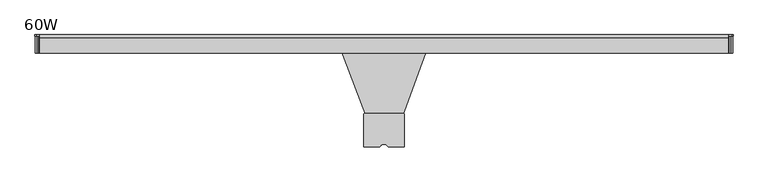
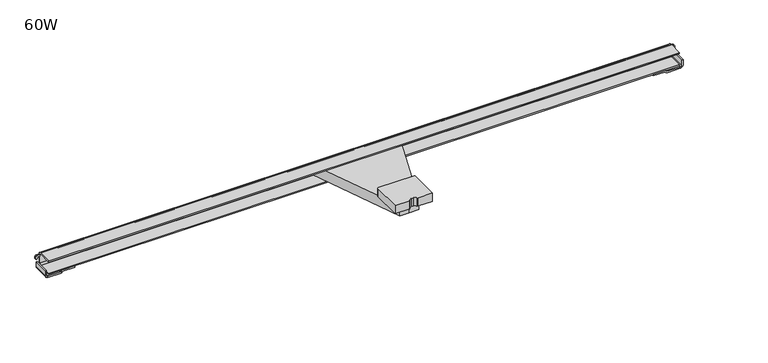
"""IFC4 building model written with IfcOpenShell, lengths in millimetres: furniture geometry, Steelcase Turnstone - Bivi - Accessories - Monitor Arm Table Mount : 60W."""

from ifc_helpers import new_model, si_unit, point, frame, frame_2d, origin, place, context, project, spatial, polyline, circle_curve, trimmed, segment, composite_curve, outline, extrude, source, transform, mapped, element, save


def furniture_60w_2125a2dd(model_context):
    return source(origin(), model_context, "Body", "SweptSolid", [
        extrude(outline(composite_curve([segment(trimmed(circle_curve(frame_2d((145.6975492, -269.8839501)), 2.257898), [point((145.6975492, -267.6260521))], [point((147.9554472, -269.8838873))], False, "CARTESIAN"), True, "CONTINUOUS"), segment(polyline([(147.9554472, -269.8838873), (147.9573046, -336.626034), (115.7071375, -336.626034)]), True, "CONTINUOUS"), segment(trimmed(circle_curve(frame_2d((115.7071375, -334.3756531)), 2.2503809), [point((115.7071375, -336.626034))], [point((113.6913493, -335.3760591))], False, "CARTESIAN"), True, "CONTINUOUS"), segment(trimmed(circle_curve(frame_2d((107.6120183, -338.3931418)), 6.7868295), [point((113.6913493, -335.3760591))], [point((108.1291888, -331.6260458))], True, "CARTESIAN"), True, "CONTINUOUS"), segment(trimmed(circle_curve(frame_2d((106.0453771, -358.8923961)), 27.3458613), [point((108.1291888, -331.6260458))], [point((103.9615653, -331.6260458))], True, "CARTESIAN"), True, "CONTINUOUS"), segment(trimmed(circle_curve(frame_2d((104.4791205, -338.3981738)), 6.7918762), [point((103.9615653, -331.6260458))], [point((99.5126263, -333.7653003))], True, "CARTESIAN"), True, "CONTINUOUS"), segment(trimmed(circle_curve(frame_2d((104.4791205, -338.3981738)), 6.7918762), [point((99.5126263, -333.7653003))], [point((98.3973037, -335.3747509))], True, "CARTESIAN"), True, "CONTINUOUS"), segment(trimmed(circle_curve(frame_2d((96.3769126, -334.3703641)), 2.2562741), [point((98.3973037, -335.3747509))], [point((96.429124, -336.626034))], False, "CARTESIAN"), True, "CONTINUOUS"), segment(polyline([(96.429124, -336.626034), (64.1398681, -336.626034), (64.1398681, -269.8377216)]), True, "CONTINUOUS"), segment(trimmed(circle_curve(frame_2d((66.3515376, -269.8377216)), 2.2116695), [point((64.1398681, -269.8377216))], [point((66.3515376, -267.6260521))], False, "CARTESIAN"), True, "CONTINUOUS"), segment(polyline([(66.3515376, -267.6260521), (145.6975492, -267.6260521)]), True, "CONTINUOUS")], self_intersect=False)), frame((0.0, 0.0, 691.6834103), z_axis=(0.0, 0.0, 1.0), x_axis=(1.0, 0.0, 0.0)), (0.0, 0.0, 1.0), 19.3004151),
        extrude(outline(polyline([(128.3372341, -317.6260494), (106.045569, -317.6260494), (86.0600715, -317.6260494), (6.7352254, -107.7199906), (106.045569, -107.7199906), (204.7367915, -107.7199906), (128.3372341, -317.6260494)])), frame((0.0, 0.0, 667.38344), z_axis=(0.0, 0.0, 1.0), x_axis=(1.0, 0.0, 0.0)), (0.0, 0.0, 1.0), 24.2999702),
        extrude(outline(composite_curve([segment(polyline([(674.8332545, -610.5146955), (674.8332545, -613.5547631), (663.5926927, -613.5547631)]), True, "CONTINUOUS"), segment(trimmed(circle_curve(frame_2d((663.5926927, -606.7952823)), 6.7594808), [point((663.5926927, -613.5547631))], [point((656.8332119, -606.7952823))], False, "CARTESIAN"), True, "CONTINUOUS"), segment(polyline([(656.8332119, -606.7952823), (656.8332119, -578.5548173)]), True, "CONTINUOUS"), segment(trimmed(circle_curve(frame_2d((662.9130886, -578.5548173)), 6.0798767), [point((656.8332119, -578.5548173))], [point((658.2556541, -574.6467225))], False, "CARTESIAN"), True, "CONTINUOUS"), segment(trimmed(circle_curve(frame_2d((650.1984046, -567.8858124)), 10.5180405), [point((658.2556541, -574.6467225))], [point((659.8731426, -572.0123872))], True, "CARTESIAN"), True, "CONTINUOUS"), segment(polyline([(659.8731426, -572.0123872), (659.8731426, -546.6123872), (662.9128796, -546.6123872), (662.9128796, -572.8251116)]), True, "CONTINUOUS"), segment(trimmed(circle_curve(frame_2d((658.7545906, -572.4008853)), 4.1798726), [point((662.9128796, -572.8251116))], [point((661.2761093, -575.7345437))], False, "CARTESIAN"), True, "CONTINUOUS"), segment(trimmed(circle_curve(frame_2d((663.4093131, -578.5548173)), 3.5361704), [point((661.2761093, -575.7345437))], [point((659.8731426, -578.5548173))], True, "CARTESIAN"), True, "CONTINUOUS"), segment(polyline([(659.8731426, -578.5548173), (659.8731426, -606.8598788)]), True, "CONTINUOUS"), segment(trimmed(circle_curve(frame_2d((663.5279593, -606.8598788)), 3.6548167), [point((659.8731426, -606.8598788))], [point((663.5279593, -610.5146955))], True, "CARTESIAN"), True, "CONTINUOUS"), segment(polyline([(663.5279593, -610.5146955), (674.8332545, -610.5146955)]), True, "CONTINUOUS")], self_intersect=False)), frame((0.0, -142.9290147, 0.0), z_axis=(0.0, 1.0, 0.0), x_axis=(0.0, 0.0, 1.0)), (0.0, 0.0, 1.0), 35.0600232),
        extrude(outline(composite_curve([segment(polyline([(674.8332545, 822.6058334), (663.5279593, 822.6058334)]), True, "CONTINUOUS"), segment(trimmed(circle_curve(frame_2d((663.5279593, 818.9510167)), 3.6548167), [point((663.5279593, 822.6058334))], [point((659.8731426, 818.9510167))], True, "CARTESIAN"), True, "CONTINUOUS"), segment(polyline([(659.8731426, 818.9510167), (659.8731426, 790.6459552)]), True, "CONTINUOUS"), segment(trimmed(circle_curve(frame_2d((663.4093131, 790.6459552)), 3.5361704), [point((659.8731426, 790.6459552))], [point((661.2761093, 787.8256816))], True, "CARTESIAN"), True, "CONTINUOUS"), segment(trimmed(circle_curve(frame_2d((658.7545906, 784.4920232)), 4.1798726), [point((661.2761093, 787.8256816))], [point((662.9128796, 784.9162495))], False, "CARTESIAN"), True, "CONTINUOUS"), segment(polyline([(662.9128796, 784.9162495), (662.9128796, 758.7035251), (659.8731426, 758.7035251), (659.8731426, 784.1035251)]), True, "CONTINUOUS"), segment(trimmed(circle_curve(frame_2d((650.1984046, 779.9769504)), 10.5180405), [point((659.8731426, 784.1035251))], [point((658.2556541, 786.7378604))], True, "CARTESIAN"), True, "CONTINUOUS"), segment(trimmed(circle_curve(frame_2d((662.9130886, 790.6459552)), 6.0798767), [point((658.2556541, 786.7378604))], [point((656.8332119, 790.6459552))], False, "CARTESIAN"), True, "CONTINUOUS"), segment(polyline([(656.8332119, 790.6459552), (656.8332119, 818.8864202)]), True, "CONTINUOUS"), segment(trimmed(circle_curve(frame_2d((663.5926927, 818.8864202)), 6.7594808), [point((656.8332119, 818.8864202))], [point((663.5926927, 825.645901))], False, "CARTESIAN"), True, "CONTINUOUS"), segment(polyline([(663.5926927, 825.645901), (674.8332545, 825.645901), (674.8332545, 822.6058334)]), True, "CONTINUOUS")], self_intersect=False)), frame((0.0, -142.9290147, 0.0), z_axis=(0.0, 1.0, 0.0), x_axis=(0.0, 0.0, 1.0)), (0.0, 0.0, 1.0), 35.0600232),
        extrude(outline(composite_curve([segment(polyline([(689.360073, 823.4959535), (689.360073, 817.1459535), (684.9088679, 817.1459535), (684.9088679, 821.6437639)]), True, "CONTINUOUS"), segment(trimmed(circle_curve(frame_2d((683.9467759, 821.6437639)), 0.962092), [point((684.9088679, 821.6437639))], [point((683.9402076, 822.6058334))], True, "CARTESIAN"), True, "CONTINUOUS"), segment(polyline([(683.9402076, 822.6058334), (682.6846117, 822.6058334)]), True, "CONTINUOUS"), segment(trimmed(circle_curve(frame_2d((682.6846117, 824.6256454)), 2.019812), [point((682.6846117, 822.6058334))], [point((682.6846117, 826.6454574))], False, "CARTESIAN"), True, "CONTINUOUS"), segment(polyline([(682.6846117, 826.6454574), (686.3728817, 826.6454574)]), True, "CONTINUOUS"), segment(trimmed(circle_curve(frame_2d((686.2061594, 823.4959535)), 3.1539136), [point((686.3728817, 826.6454574))], [point((689.360073, 823.4959535))], False, "CARTESIAN"), True, "CONTINUOUS")], self_intersect=False)), frame((0.0, -107.8816597, 0.0), z_axis=(0.0, 1.0, 0.0), x_axis=(0.0, 0.0, 1.0)), (0.0, 0.0, 1.0), 3.0328938),
        extrude(outline(composite_curve([segment(trimmed(circle_curve(frame_2d((686.2061594, -611.4048156)), 3.1539136), [point((689.360073, -611.4048156))], [point((686.3728817, -614.5543195))], False, "CARTESIAN"), True, "CONTINUOUS"), segment(polyline([(686.3728817, -614.5543195), (682.6846117, -614.5543195)]), True, "CONTINUOUS"), segment(trimmed(circle_curve(frame_2d((682.6846117, -612.5345075)), 2.019812), [point((682.6846117, -614.5543195))], [point((682.6846117, -610.5146955))], False, "CARTESIAN"), True, "CONTINUOUS"), segment(polyline([(682.6846117, -610.5146955), (683.9402076, -610.5146955)]), True, "CONTINUOUS"), segment(trimmed(circle_curve(frame_2d((683.9467759, -609.552626)), 0.962092), [point((683.9402076, -610.5146955))], [point((684.9088679, -609.552626))], True, "CARTESIAN"), True, "CONTINUOUS"), segment(polyline([(684.9088679, -609.552626), (684.9088679, -605.0548156), (689.360073, -605.0548156), (689.360073, -611.4048156)]), True, "CONTINUOUS")], self_intersect=False)), frame((0.0, -107.8816597, 0.0), z_axis=(0.0, 1.0, 0.0), x_axis=(0.0, 0.0, 1.0)), (0.0, 0.0, 1.0), 3.0328938),
        extrude(outline(composite_curve([segment(polyline([(-142.9289017, 692.3731344), (-142.9289017, 695.4129307), (-110.7527955, 695.4129307)]), True, "CONTINUOUS"), segment(trimmed(circle_curve(frame_2d((-110.7527955, 689.5089011)), 5.9040296), [point((-110.7527955, 695.4129307))], [point((-104.8487659, 689.5089011))], False, "CARTESIAN"), True, "CONTINUOUS"), segment(polyline([(-104.8487659, 689.5089011), (-104.8487659, 669.2628796)]), True, "CONTINUOUS"), segment(trimmed(circle_curve(frame_2d((-111.1987659, 669.2628796)), 6.35), [point((-104.8487659, 669.2628796))], [point((-111.1987659, 662.9128796))], False, "CARTESIAN"), True, "CONTINUOUS"), segment(polyline([(-111.1987659, 662.9128796), (-142.9289017, 662.9128796), (-142.9289017, 665.7553268), (-111.1222674, 665.7553268)]), True, "CONTINUOUS"), segment(trimmed(circle_curve(frame_2d((-111.1222674, 669.1557803)), 3.4004535), [point((-111.1222674, 665.7553268))], [point((-107.7218139, 669.1557803))], True, "CARTESIAN"), True, "CONTINUOUS"), segment(polyline([(-107.7218139, 669.1557803), (-107.7218139, 688.9768169)]), True, "CONTINUOUS"), segment(trimmed(circle_curve(frame_2d((-111.1181314, 688.9768169)), 3.3963175), [point((-107.7218139, 688.9768169))], [point((-111.1181314, 692.3731344))], True, "CARTESIAN"), True, "CONTINUOUS"), segment(polyline([(-111.1181314, 692.3731344), (-142.9289017, 692.3731344)]), True, "CONTINUOUS")], self_intersect=False)), frame((-605.0551418, 0.0, 0.0), z_axis=(1.0, 0.0, 0.0), x_axis=(0.0, 1.0, 0.0)), (0.0, 0.0, 1.0), 1422.2010954),
    ])


if __name__ == "__main__":
    model = new_model("IFC4")
    model_context = context("Model", 3, world=origin())
    ifc_project = project(units=[si_unit("LENGTHUNIT", "METRE", prefix="MILLI")], contexts=[model_context])
    site = spatial("IfcSite", under=ifc_project)
    building = spatial("IfcBuilding", under=site)
    placement = place(None, origin())
    furniture_60w_shape = furniture_60w_2125a2dd(model_context)
    element("IfcFurniture", 1, ObjectType="Steelcase Turnstone - Bivi - Accessories - Monitor Arm Table Mount : 60W", at=placement, inside=building, context=model_context, shape_type="MappedRepresentation", body=[
        mapped(furniture_60w_shape, transform((0.0, 0.0, 0.0), x_axis=(1.0, 0.0, 0.0), y_axis=(0.0, 1.0, 0.0), z_axis=(0.0, 0.0, 1.0))),
    ])
    save(model, "model.ifc")
